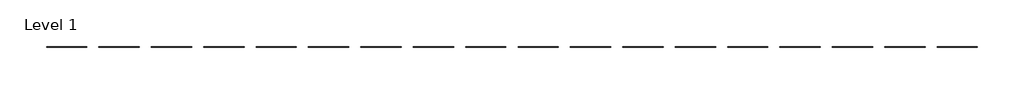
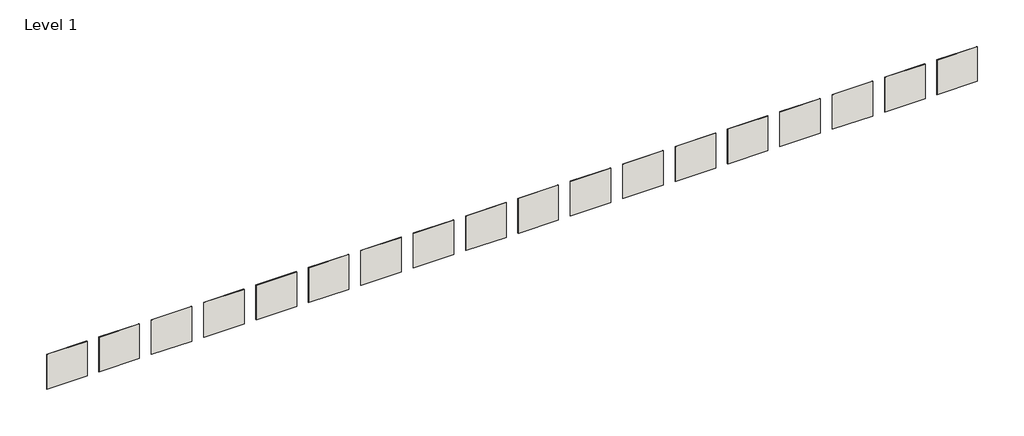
# One storey: 18 walls.
"""IFC4 building model written with IfcOpenShell, lengths in millimetres."""

from ifc_helpers import new_model, si_unit, origin, origin_with_axes, place, context, project, spatial, polyline, outline, extrude, element, save

model = new_model("IFC4")

# Units and contexts
model_context = context("Model", 3, world=origin())
ifc_project = project(units=[si_unit("LENGTHUNIT", "METRE", prefix="MILLI")], contexts=[model_context])

# Site, building, storey
site = spatial("IfcSite", under=ifc_project)
building = spatial("IfcBuilding", under=site)
storey = spatial("IfcBuildingStorey", under=building, Name="Level 1", Elevation=0.0)

# Walls
placement = place(None, origin())
element("IfcWall", 1, ObjectType="Wood Siding - Thermory - Pine Cladding 20x115 C4 - Smooth", at=placement, inside=storey, context=model_context, shape_type="SweptSolid", body=[
    extrude(outline(polyline([(8526.589273, 3746.8965289), (5173.789273, 3746.8965289), (5173.789273, 3766.8965289), (8526.589273, 3766.8965289), (8526.589273, 3746.8965289)])), origin_with_axes(), (0.0, 0.0, 1.0), 3048.0),
])
element("IfcWall", 2, ObjectType="Wood Siding - Thermory - Pine Cladding 20x140 C4 - Smooth", at=placement, inside=storey, context=model_context, shape_type="SweptSolid", body=[
    extrude(outline(polyline([(12879.389273, 3746.8965289), (9526.589273, 3746.8965289), (9526.589273, 3766.8965289), (12879.389273, 3766.8965289), (12879.389273, 3746.8965289)])), origin_with_axes(), (0.0, 0.0, 1.0), 3048.0),
])
element("IfcWall", 3, ObjectType="Wood Siding - Thermory - Pine Cladding 26x68 C4 - Smooth", at=placement, inside=storey, context=model_context, shape_type="SweptSolid", body=[
    extrude(outline(polyline([(17231.389273, 3746.8965289), (13878.589273, 3746.8965289), (13878.589273, 3772.8965289), (17231.389273, 3772.8965289), (17231.389273, 3746.8965289)])), origin_with_axes(), (0.0, 0.0, 1.0), 3048.0),
])
element("IfcWall", 4, ObjectType="Wood Siding - Thermory - Pine Cladding 42x42 C4 - Smooth", at=placement, inside=storey, context=model_context, shape_type="SweptSolid", body=[
    extrude(outline(polyline([(21583.389273, 3746.8965289), (18230.589273, 3746.8965289), (18230.589273, 3788.8965289), (21583.389273, 3788.8965289), (21583.389273, 3746.8965289)])), origin_with_axes(), (0.0, 0.0, 1.0), 3048.0),
])
element("IfcWall", 5, ObjectType="Wood Siding - Thermory - Pine Cladding 42x140 D4 - Smooth", at=placement, inside=storey, context=model_context, shape_type="SweptSolid", body=[
    extrude(outline(polyline([(25935.389273, 3746.8965289), (22582.589273, 3746.8965289), (22582.589273, 3788.8965289), (25935.389273, 3788.8965289), (25935.389273, 3746.8965289)])), origin_with_axes(), (0.0, 0.0, 1.0), 3048.0),
])
element("IfcWall", 6, ObjectType="Wood Siding - Thermory - Pine Cladding 42x42 C4J - Smooth", at=placement, inside=storey, context=model_context, shape_type="SweptSolid", body=[
    extrude(outline(polyline([(30287.389273, 3746.8965289), (26934.589273, 3746.8965289), (26934.589273, 3788.8965289), (30287.389273, 3788.8965289), (30287.389273, 3746.8965289)])), origin_with_axes(), (0.0, 0.0, 1.0), 3048.0),
])
element("IfcWall", 7, ObjectType="Wood Siding - Thermory - Pine Cladding 20x65 C7J - Smooth", at=placement, inside=storey, context=model_context, shape_type="SweptSolid", body=[
    extrude(outline(polyline([(34639.389273, 3746.8965289), (31286.589273, 3746.8965289), (31286.589273, 3766.8965289), (34639.389273, 3766.8965289), (34639.389273, 3746.8965289)])), origin_with_axes(), (0.0, 0.0, 1.0), 3048.0),
])
element("IfcWall", 8, ObjectType="Wood Siding - Thermory - Pine Cladding 20x115 C1 - Smooth", at=placement, inside=storey, context=model_context, shape_type="SweptSolid", body=[
    extrude(outline(polyline([(38991.389273, 3746.8965289), (35638.589273, 3746.8965289), (35638.589273, 3766.8965289), (38991.389273, 3766.8965289), (38991.389273, 3746.8965289)])), origin_with_axes(), (0.0, 0.0, 1.0), 3048.0),
])
element("IfcWall", 9, ObjectType="Wood Siding - Thermory - Pine Cladding 20x140 C1 - Smooth", at=placement, inside=storey, context=model_context, shape_type="SweptSolid", body=[
    extrude(outline(polyline([(43343.389273, 3746.8965289), (39990.589273, 3746.8965289), (39990.589273, 3766.8965289), (43343.389273, 3766.8965289), (43343.389273, 3746.8965289)])), origin_with_axes(), (0.0, 0.0, 1.0), 3048.0),
])
element("IfcWall", 10, ObjectType="Wood Siding - Thermory - Pine Cladding 20x115 C3 - Smooth", at=placement, inside=storey, context=model_context, shape_type="SweptSolid", body=[
    extrude(outline(polyline([(47695.389273, 3746.8965289), (44342.589273, 3746.8965289), (44342.589273, 3766.8965289), (47695.389273, 3766.8965289), (47695.389273, 3746.8965289)])), origin_with_axes(), (0.0, 0.0, 1.0), 3048.0),
])
element("IfcWall", 11, ObjectType="Wood Siding - Thermory - Pine Cladding 20x140 C3 - Smooth", at=placement, inside=storey, context=model_context, shape_type="SweptSolid", body=[
    extrude(outline(polyline([(52047.389273, 3746.8965289), (48694.589273, 3746.8965289), (48694.589273, 3766.8965289), (52047.389273, 3766.8965289), (52047.389273, 3746.8965289)])), origin_with_axes(), (0.0, 0.0, 1.0), 3048.0),
])
element("IfcWall", 12, ObjectType="Wood Siding - Thermory - Pine Cladding 20x67 C7 - Smooth", at=placement, inside=storey, context=model_context, shape_type="SweptSolid", body=[
    extrude(outline(polyline([(56399.389273, 3746.8965289), (53046.589273, 3746.8965289), (53046.589273, 3766.8965289), (56399.389273, 3766.8965289), (56399.389273, 3746.8965289)])), origin_with_axes(), (0.0, 0.0, 1.0), 3048.0),
])
element("IfcWall", 13, ObjectType="Wood Siding - Thermory - Pine Cladding 26x140 C8D - Smooth", at=placement, inside=storey, context=model_context, shape_type="SweptSolid", body=[
    extrude(outline(polyline([(60751.389273, 3746.8965289), (57398.589273, 3746.8965289), (57398.589273, 3772.8965289), (60751.389273, 3772.8965289), (60751.389273, 3746.8965289)])), origin_with_axes(), (0.0, 0.0, 1.0), 3048.0),
])
element("IfcWall", 14, ObjectType="Wood Siding - Thermory - Pine Cladding 26x115 C34-2 - Smooth", at=placement, inside=storey, context=model_context, shape_type="SweptSolid", body=[
    extrude(outline(polyline([(65103.389273, 3746.8965289), (61750.589273, 3746.8965289), (61750.589273, 3772.8965289), (65103.389273, 3772.8965289), (65103.389273, 3746.8965289)])), origin_with_axes(), (0.0, 0.0, 1.0), 3048.0),
])
element("IfcWall", 15, ObjectType="Wood Siding - Thermory - Pine Cladding 20x90 C34 - Smooth", at=placement, inside=storey, context=model_context, shape_type="SweptSolid", body=[
    extrude(outline(polyline([(69455.389273, 3746.8965289), (66102.589273, 3746.8965289), (66102.589273, 3766.8965289), (69455.389273, 3766.8965289), (69455.389273, 3746.8965289)])), origin_with_axes(), (0.0, 0.0, 1.0), 3048.0),
])
element("IfcWall", 16, ObjectType="Wood Siding - Thermory - Pine Cladding 20x140 C34 - Smooth", at=placement, inside=storey, context=model_context, shape_type="SweptSolid", body=[
    extrude(outline(polyline([(73807.389273, 3746.8965289), (70454.589273, 3746.8965289), (70454.589273, 3766.8965289), (73807.389273, 3766.8965289), (73807.389273, 3746.8965289)])), origin_with_axes(), (0.0, 0.0, 1.0), 3048.0),
])
element("IfcWall", 17, ObjectType="Wood Siding - Thermory - Pine Cladding 20x115 C34 - Smooth", at=placement, inside=storey, context=model_context, shape_type="SweptSolid", body=[
    extrude(outline(polyline([(78159.389273, 3746.8965289), (74806.589273, 3746.8965289), (74806.589273, 3766.8965289), (78159.389273, 3766.8965289), (78159.389273, 3746.8965289)])), origin_with_axes(), (0.0, 0.0, 1.0), 3048.0),
])
element("IfcWall", 18, ObjectType="Wood Siding - Thermory - Pine Cladding 26x68 C34 - Smooth", at=placement, inside=storey, context=model_context, shape_type="SweptSolid", body=[
    extrude(outline(polyline([(82511.389273, 3746.8965289), (79158.589273, 3746.8965289), (79158.589273, 3772.8965289), (82511.389273, 3772.8965289), (82511.389273, 3746.8965289)])), origin_with_axes(), (0.0, 0.0, 1.0), 3048.0),
])

save(model, "model.ifc")
